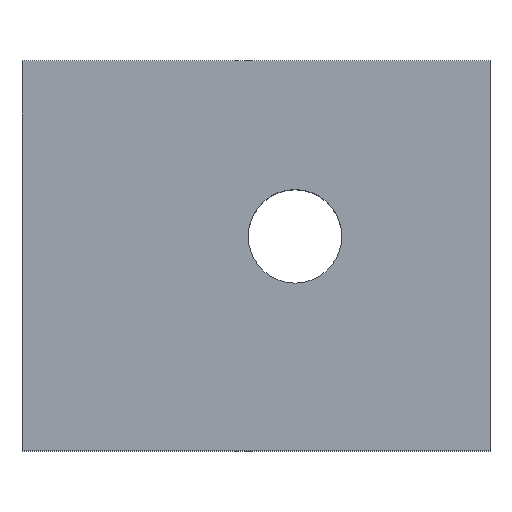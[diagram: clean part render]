
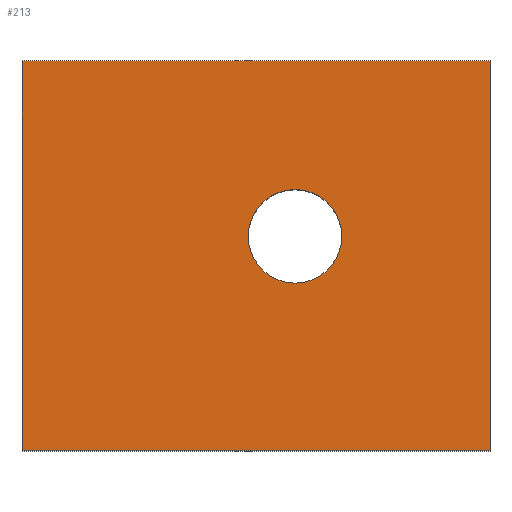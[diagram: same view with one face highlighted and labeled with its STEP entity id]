
A CAD part, top view. The second image highlights one B-rep face of the part: STEP entity #213.
In plain terms, the highlighted planar face has unit normal (0, 0, 1).
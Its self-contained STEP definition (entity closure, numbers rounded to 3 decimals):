
#24 = VERTEX_POINT('',#25);
#25 = CARTESIAN_POINT('',(0.,0.,4.));
#32 = PLANE('',#33);
#33 = AXIS2_PLACEMENT_3D('',#34,#35,#36);
#34 = CARTESIAN_POINT('',(0.,0.,0.));
#35 = DIRECTION('',(1.,0.,-0.));
#36 = DIRECTION('',(0.,0.,1.));
#44 = PLANE('',#45);
#45 = AXIS2_PLACEMENT_3D('',#46,#47,#48);
#46 = CARTESIAN_POINT('',(0.,0.,0.));
#47 = DIRECTION('',(-0.,1.,0.));
#48 = DIRECTION('',(0.,0.,1.));
#85 = VERTEX_POINT('',#86);
#86 = CARTESIAN_POINT('',(0.,10.,4.));
#100 = PLANE('',#101);
#101 = AXIS2_PLACEMENT_3D('',#102,#103,#104);
#102 = CARTESIAN_POINT('',(0.,10.,0.));
#103 = DIRECTION('',(-0.,1.,0.));
#104 = DIRECTION('',(0.,0.,1.));
#112 = EDGE_CURVE('',#24,#85,#113,.T.);
#113 = SURFACE_CURVE('',#114,(#118,#125),.PCURVE_S1.);
#114 = LINE('',#115,#116);
#115 = CARTESIAN_POINT('',(0.,0.,4.));
#116 = VECTOR('',#117,1.);
#117 = DIRECTION('',(-0.,1.,0.));
#118 = PCURVE('',#32,#119);
#119 = DEFINITIONAL_REPRESENTATION('',(#120),#124);
#120 = LINE('',#121,#122);
#121 = CARTESIAN_POINT('',(4.,0.));
#122 = VECTOR('',#123,1.);
#123 = DIRECTION('',(0.,-1.));
#124 = ( GEOMETRIC_REPRESENTATION_CONTEXT(2) 
PARAMETRIC_REPRESENTATION_CONTEXT() REPRESENTATION_CONTEXT('2D SPACE',''
  ) );
#125 = PCURVE('',#126,#131);
#126 = PLANE('',#127);
#127 = AXIS2_PLACEMENT_3D('',#128,#129,#130);
#128 = CARTESIAN_POINT('',(0.,0.,4.));
#129 = DIRECTION('',(0.,0.,1.));
#130 = DIRECTION('',(1.,0.,-0.));
#131 = DEFINITIONAL_REPRESENTATION('',(#132),#136);
#132 = LINE('',#133,#134);
#133 = CARTESIAN_POINT('',(0.,0.));
#134 = VECTOR('',#135,1.);
#135 = DIRECTION('',(0.,1.));
#136 = ( GEOMETRIC_REPRESENTATION_CONTEXT(2) 
PARAMETRIC_REPRESENTATION_CONTEXT() REPRESENTATION_CONTEXT('2D SPACE',''
  ) );
#165 = EDGE_CURVE('',#24,#166,#168,.T.);
#166 = VERTEX_POINT('',#167);
#167 = CARTESIAN_POINT('',(12.,0.,4.));
#168 = SURFACE_CURVE('',#169,(#173,#180),.PCURVE_S1.);
#169 = LINE('',#170,#171);
#170 = CARTESIAN_POINT('',(0.,0.,4.));
#171 = VECTOR('',#172,1.);
#172 = DIRECTION('',(1.,0.,-0.));
#173 = PCURVE('',#44,#174);
#174 = DEFINITIONAL_REPRESENTATION('',(#175),#179);
#175 = LINE('',#176,#177);
#176 = CARTESIAN_POINT('',(4.,0.));
#177 = VECTOR('',#178,1.);
#178 = DIRECTION('',(0.,1.));
#179 = ( GEOMETRIC_REPRESENTATION_CONTEXT(2) 
PARAMETRIC_REPRESENTATION_CONTEXT() REPRESENTATION_CONTEXT('2D SPACE',''
  ) );
#180 = PCURVE('',#126,#181);
#181 = DEFINITIONAL_REPRESENTATION('',(#182),#186);
#182 = LINE('',#183,#184);
#183 = CARTESIAN_POINT('',(0.,0.));
#184 = VECTOR('',#185,1.);
#185 = DIRECTION('',(1.,0.));
#186 = ( GEOMETRIC_REPRESENTATION_CONTEXT(2) 
PARAMETRIC_REPRESENTATION_CONTEXT() REPRESENTATION_CONTEXT('2D SPACE',''
  ) );
#202 = PLANE('',#203);
#203 = AXIS2_PLACEMENT_3D('',#204,#205,#206);
#204 = CARTESIAN_POINT('',(12.,0.,0.));
#205 = DIRECTION('',(1.,0.,-0.));
#206 = DIRECTION('',(0.,0.,1.));
#213 = ADVANCED_FACE('',(#214,#262),#126,.T.);
#214 = FACE_BOUND('',#215,.T.);
#215 = EDGE_LOOP('',(#216,#217,#218,#241));
#216 = ORIENTED_EDGE('',*,*,#112,.F.);
#217 = ORIENTED_EDGE('',*,*,#165,.T.);
#218 = ORIENTED_EDGE('',*,*,#219,.T.);
#219 = EDGE_CURVE('',#166,#220,#222,.T.);
#220 = VERTEX_POINT('',#221);
#221 = CARTESIAN_POINT('',(12.,10.,4.));
#222 = SURFACE_CURVE('',#223,(#227,#234),.PCURVE_S1.);
#223 = LINE('',#224,#225);
#224 = CARTESIAN_POINT('',(12.,0.,4.));
#225 = VECTOR('',#226,1.);
#226 = DIRECTION('',(-0.,1.,0.));
#227 = PCURVE('',#126,#228);
#228 = DEFINITIONAL_REPRESENTATION('',(#229),#233);
#229 = LINE('',#230,#231);
#230 = CARTESIAN_POINT('',(12.,0.));
#231 = VECTOR('',#232,1.);
#232 = DIRECTION('',(0.,1.));
#233 = ( GEOMETRIC_REPRESENTATION_CONTEXT(2) 
PARAMETRIC_REPRESENTATION_CONTEXT() REPRESENTATION_CONTEXT('2D SPACE',''
  ) );
#234 = PCURVE('',#202,#235);
#235 = DEFINITIONAL_REPRESENTATION('',(#236),#240);
#236 = LINE('',#237,#238);
#237 = CARTESIAN_POINT('',(4.,0.));
#238 = VECTOR('',#239,1.);
#239 = DIRECTION('',(0.,-1.));
#240 = ( GEOMETRIC_REPRESENTATION_CONTEXT(2) 
PARAMETRIC_REPRESENTATION_CONTEXT() REPRESENTATION_CONTEXT('2D SPACE',''
  ) );
#241 = ORIENTED_EDGE('',*,*,#242,.F.);
#242 = EDGE_CURVE('',#85,#220,#243,.T.);
#243 = SURFACE_CURVE('',#244,(#248,#255),.PCURVE_S1.);
#244 = LINE('',#245,#246);
#245 = CARTESIAN_POINT('',(0.,10.,4.));
#246 = VECTOR('',#247,1.);
#247 = DIRECTION('',(1.,0.,-0.));
#248 = PCURVE('',#126,#249);
#249 = DEFINITIONAL_REPRESENTATION('',(#250),#254);
#250 = LINE('',#251,#252);
#251 = CARTESIAN_POINT('',(0.,10.));
#252 = VECTOR('',#253,1.);
#253 = DIRECTION('',(1.,0.));
#254 = ( GEOMETRIC_REPRESENTATION_CONTEXT(2) 
PARAMETRIC_REPRESENTATION_CONTEXT() REPRESENTATION_CONTEXT('2D SPACE',''
  ) );
#255 = PCURVE('',#100,#256);
#256 = DEFINITIONAL_REPRESENTATION('',(#257),#261);
#257 = LINE('',#258,#259);
#258 = CARTESIAN_POINT('',(4.,0.));
#259 = VECTOR('',#260,1.);
#260 = DIRECTION('',(0.,1.));
#261 = ( GEOMETRIC_REPRESENTATION_CONTEXT(2) 
PARAMETRIC_REPRESENTATION_CONTEXT() REPRESENTATION_CONTEXT('2D SPACE',''
  ) );
#262 = FACE_BOUND('',#263,.T.);
#263 = EDGE_LOOP('',(#264));
#264 = ORIENTED_EDGE('',*,*,#265,.F.);
#265 = EDGE_CURVE('',#266,#266,#268,.T.);
#266 = VERTEX_POINT('',#267);
#267 = CARTESIAN_POINT('',(8.2,5.5,4.));
#268 = SURFACE_CURVE('',#269,(#274,#281),.PCURVE_S1.);
#269 = CIRCLE('',#270,1.2);
#270 = AXIS2_PLACEMENT_3D('',#271,#272,#273);
#271 = CARTESIAN_POINT('',(7.,5.5,4.));
#272 = DIRECTION('',(0.,0.,1.));
#273 = DIRECTION('',(1.,0.,-0.));
#274 = PCURVE('',#126,#275);
#275 = DEFINITIONAL_REPRESENTATION('',(#276),#280);
#276 = CIRCLE('',#277,1.2);
#277 = AXIS2_PLACEMENT_2D('',#278,#279);
#278 = CARTESIAN_POINT('',(7.,5.5));
#279 = DIRECTION('',(1.,0.));
#280 = ( GEOMETRIC_REPRESENTATION_CONTEXT(2) 
PARAMETRIC_REPRESENTATION_CONTEXT() REPRESENTATION_CONTEXT('2D SPACE',''
  ) );
#281 = PCURVE('',#282,#287);
#282 = CYLINDRICAL_SURFACE('',#283,1.2);
#283 = AXIS2_PLACEMENT_3D('',#284,#285,#286);
#284 = CARTESIAN_POINT('',(7.,5.5,-2.));
#285 = DIRECTION('',(0.,0.,1.));
#286 = DIRECTION('',(1.,0.,-0.));
#287 = DEFINITIONAL_REPRESENTATION('',(#288),#292);
#288 = LINE('',#289,#290);
#289 = CARTESIAN_POINT('',(0.,6.));
#290 = VECTOR('',#291,1.);
#291 = DIRECTION('',(1.,0.));
#292 = ( GEOMETRIC_REPRESENTATION_CONTEXT(2) 
PARAMETRIC_REPRESENTATION_CONTEXT() REPRESENTATION_CONTEXT('2D SPACE',''
  ) );
